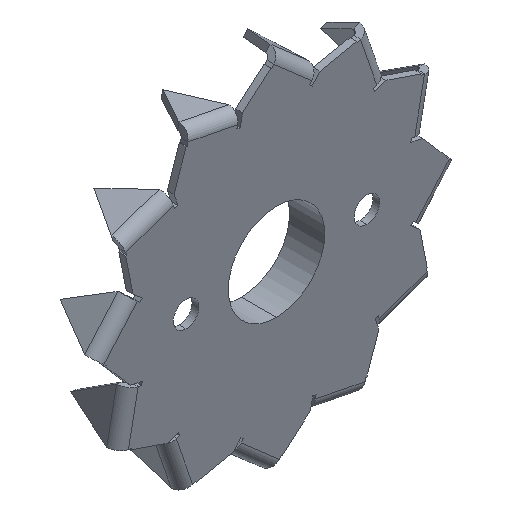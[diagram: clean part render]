
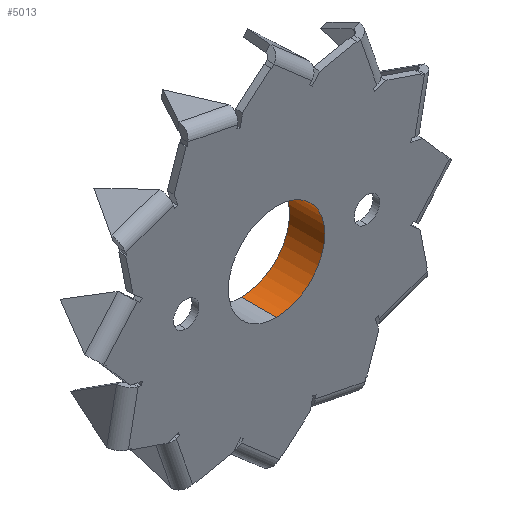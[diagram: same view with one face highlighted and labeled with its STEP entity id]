
A CAD part, isometric view. The second image highlights one B-rep face of the part: STEP entity #5013.
In plain terms, the highlighted cylindrical face has radius 8.5 mm (diameter 17 mm), a partial arc.
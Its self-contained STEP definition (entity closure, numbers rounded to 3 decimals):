
#17 = CYLINDRICAL_SURFACE ( 'NONE', #1177, 8.5 ) ;
#477 = CARTESIAN_POINT ( 'NONE',  ( 0., -10., -8.5 ) ) ;
#777 = VERTEX_POINT ( 'NONE', #4537 ) ;
#800 = DIRECTION ( 'NONE',  ( 0., 1., 0. ) ) ;
#940 = CARTESIAN_POINT ( 'NONE',  ( 0., -1.2, 8.5 ) ) ;
#1177 = AXIS2_PLACEMENT_3D ( 'NONE', #3317, #2909, #3765 ) ;
#1231 = DIRECTION ( 'NONE',  ( 0., 0., -1. ) ) ;
#1286 = DIRECTION ( 'NONE',  ( 0., 1., 0. ) ) ;
#1410 = ORIENTED_EDGE ( 'NONE', *, *, #3777, .F. ) ;
#1621 = AXIS2_PLACEMENT_3D ( 'NONE', #4437, #2470, #2880 ) ;
#1725 = CIRCLE ( 'NONE', #1621, 8.5 ) ;
#1734 = ORIENTED_EDGE ( 'NONE', *, *, #2388, .T. ) ;
#1961 = ORIENTED_EDGE ( 'NONE', *, *, #3342, .T. ) ;
#1997 = AXIS2_PLACEMENT_3D ( 'NONE', #2063, #2819, #1231 ) ;
#2063 = CARTESIAN_POINT ( 'NONE',  ( 0., -1.2, 0. ) ) ;
#2125 = CARTESIAN_POINT ( 'NONE',  ( 0., -1.2, -8.5 ) ) ;
#2388 = EDGE_CURVE ( 'NONE', #2488, #3949, #3643, .T. ) ;
#2470 = DIRECTION ( 'NONE',  ( 0., 1., 0. ) ) ;
#2488 = VERTEX_POINT ( 'NONE', #2125 ) ;
#2819 = DIRECTION ( 'NONE',  ( 0., -1., 0. ) ) ;
#2880 = DIRECTION ( 'NONE',  ( 0., 0., 1. ) ) ;
#2909 = DIRECTION ( 'NONE',  ( 0., 1., 0. ) ) ;
#3078 = VERTEX_POINT ( 'NONE', #3107 ) ;
#3107 = CARTESIAN_POINT ( 'NONE',  ( 0., 5., 8.5 ) ) ;
#3317 = CARTESIAN_POINT ( 'NONE',  ( 0., -10., 0. ) ) ;
#3342 = EDGE_CURVE ( 'NONE', #3078, #777, #1725, .T. ) ;
#3432 = FACE_OUTER_BOUND ( 'NONE', #4185, .T. ) ;
#3643 = CIRCLE ( 'NONE', #1997, 8.5 ) ;
#3765 = DIRECTION ( 'NONE',  ( 0., 0., 1. ) ) ;
#3777 = EDGE_CURVE ( 'NONE', #2488, #777, #4678, .T. ) ;
#3949 = VERTEX_POINT ( 'NONE', #940 ) ;
#4185 = EDGE_LOOP ( 'NONE', ( #1410, #1734, #4628, #1961 ) ) ;
#4186 = LINE ( 'NONE', #4343, #4731 ) ;
#4253 = EDGE_CURVE ( 'NONE', #3949, #3078, #4186, .T. ) ;
#4343 = CARTESIAN_POINT ( 'NONE',  ( 0., -10., 8.5 ) ) ;
#4437 = CARTESIAN_POINT ( 'NONE',  ( 0., 5., 0. ) ) ;
#4537 = CARTESIAN_POINT ( 'NONE',  ( 0., 5., -8.5 ) ) ;
#4628 = ORIENTED_EDGE ( 'NONE', *, *, #4253, .T. ) ;
#4678 = LINE ( 'NONE', #477, #4791 ) ;
#4731 = VECTOR ( 'NONE', #800, 1000. ) ;
#4791 = VECTOR ( 'NONE', #1286, 1000. ) ;
#5013 = ADVANCED_FACE ( 'NONE', ( #3432 ), #17, .F. ) ;
